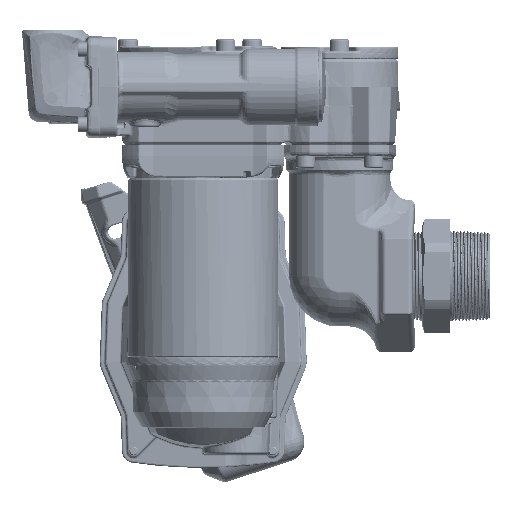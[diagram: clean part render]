
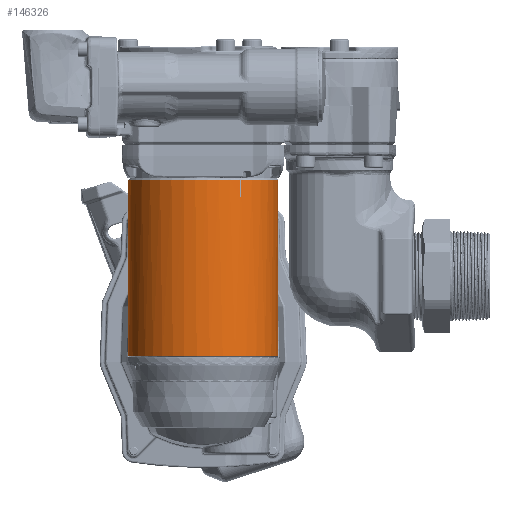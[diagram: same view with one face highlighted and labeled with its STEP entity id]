
A CAD part, left-side view. The second image highlights one B-rep face of the part: STEP entity #146326.
In plain terms, the highlighted cylindrical face has radius 50.8 mm (diameter 101.6 mm), a full revolution.
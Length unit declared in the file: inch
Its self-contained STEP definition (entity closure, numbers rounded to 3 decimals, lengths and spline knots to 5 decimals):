
#17139=CYLINDRICAL_SURFACE('',#157441,2.);
#21219=FACE_OUTER_BOUND('',#30005,.T.);
#30005=EDGE_LOOP('',(#115471,#115472,#115473,#115474,#115475,#115476,#115477,
#115478,#115479,#115480,#115481,#115482,#115483,#115484));
#44775=CIRCLE('',#157424,2.);
#44776=CIRCLE('',#157426,2.);
#44777=CIRCLE('',#157427,2.);
#44778=CIRCLE('',#157428,2.);
#44781=CIRCLE('',#157435,2.);
#44783=CIRCLE('',#157438,2.);
#44784=CIRCLE('',#157439,2.);
#44785=CIRCLE('',#157440,2.);
#50058=LINE('',#263862,#58709);
#50060=LINE('',#263875,#58711);
#50066=LINE('',#263902,#58717);
#50067=LINE('',#263909,#58718);
#50070=LINE('',#263923,#58721);
#58709=VECTOR('',#178108,0.3937);
#58711=VECTOR('',#178118,0.3937);
#58717=VECTOR('',#178144,0.3937);
#58718=VECTOR('',#178147,0.3937);
#58721=VECTOR('',#178166,2.);
#69836=VERTEX_POINT('',#263854);
#69838=VERTEX_POINT('',#263860);
#69841=VERTEX_POINT('',#263870);
#69842=VERTEX_POINT('',#263874);
#69843=VERTEX_POINT('',#263880);
#69844=VERTEX_POINT('',#263882);
#69849=VERTEX_POINT('',#263896);
#69850=VERTEX_POINT('',#263900);
#69851=VERTEX_POINT('',#263904);
#69852=VERTEX_POINT('',#263908);
#69854=VERTEX_POINT('',#263916);
#69855=VERTEX_POINT('',#263919);
#86194=EDGE_CURVE('',#69836,#69838,#50058,.T.);
#86199=EDGE_CURVE('',#69842,#69841,#50060,.T.);
#86201=EDGE_CURVE('',#69838,#69842,#44775,.T.);
#86202=EDGE_CURVE('',#69836,#69843,#44776,.T.);
#86203=EDGE_CURVE('',#69843,#69844,#44777,.T.);
#86205=EDGE_CURVE('',#69844,#69841,#44778,.T.);
#86212=EDGE_CURVE('',#69849,#69850,#50066,.T.);
#86214=EDGE_CURVE('',#69852,#69851,#50067,.T.);
#86216=EDGE_CURVE('',#69850,#69852,#44781,.T.);
#86219=EDGE_CURVE('',#69854,#69851,#44783,.T.);
#86220=EDGE_CURVE('',#69849,#69855,#44784,.T.);
#86221=EDGE_CURVE('',#69855,#69854,#44785,.T.);
#86222=EDGE_CURVE('',#69855,#69843,#50070,.T.);
#115471=ORIENTED_EDGE('',*,*,#86214,.T.);
#115472=ORIENTED_EDGE('',*,*,#86219,.F.);
#115473=ORIENTED_EDGE('',*,*,#86221,.F.);
#115474=ORIENTED_EDGE('',*,*,#86222,.T.);
#115475=ORIENTED_EDGE('',*,*,#86202,.F.);
#115476=ORIENTED_EDGE('',*,*,#86194,.T.);
#115477=ORIENTED_EDGE('',*,*,#86201,.T.);
#115478=ORIENTED_EDGE('',*,*,#86199,.T.);
#115479=ORIENTED_EDGE('',*,*,#86205,.F.);
#115480=ORIENTED_EDGE('',*,*,#86203,.F.);
#115481=ORIENTED_EDGE('',*,*,#86222,.F.);
#115482=ORIENTED_EDGE('',*,*,#86220,.F.);
#115483=ORIENTED_EDGE('',*,*,#86212,.T.);
#115484=ORIENTED_EDGE('',*,*,#86216,.T.);
#146326=ADVANCED_FACE('',(#21219),#17139,.T.);
#157424=AXIS2_PLACEMENT_3D('',#263878,#178122,#178123);
#157426=AXIS2_PLACEMENT_3D('',#263881,#178126,#178127);
#157427=AXIS2_PLACEMENT_3D('',#263883,#178128,#178129);
#157428=AXIS2_PLACEMENT_3D('',#263885,#178131,#178132);
#157435=AXIS2_PLACEMENT_3D('',#263912,#178151,#178152);
#157438=AXIS2_PLACEMENT_3D('',#263918,#178158,#178159);
#157439=AXIS2_PLACEMENT_3D('',#263920,#178160,#178161);
#157440=AXIS2_PLACEMENT_3D('',#263921,#178162,#178163);
#157441=AXIS2_PLACEMENT_3D('',#263922,#178164,#178165);
#178108=DIRECTION('',(0.,0.,-1.));
#178118=DIRECTION('',(0.,0.,1.));
#178122=DIRECTION('center_axis',(0.,0.,
-1.));
#178123=DIRECTION('ref_axis',(-0.966,0.259,0.));
#178126=DIRECTION('center_axis',(0.,0.,
1.));
#178127=DIRECTION('ref_axis',(0.966,-0.259,0.));
#178128=DIRECTION('center_axis',(0.,0.,
1.));
#178129=DIRECTION('ref_axis',(0.966,-0.259,0.));
#178131=DIRECTION('center_axis',(0.,0.,
1.));
#178132=DIRECTION('ref_axis',(0.966,-0.259,0.));
#178144=DIRECTION('',(0.,0.,1.));
#178147=DIRECTION('',(0.,0.,-1.));
#178151=DIRECTION('center_axis',(0.,0.,
1.));
#178152=DIRECTION('ref_axis',(-0.966,0.259,0.));
#178158=DIRECTION('center_axis',(0.,0.,
-1.));
#178159=DIRECTION('ref_axis',(0.966,-0.259,0.));
#178160=DIRECTION('center_axis',(0.,0.,
-1.));
#178161=DIRECTION('ref_axis',(0.966,-0.259,0.));
#178162=DIRECTION('center_axis',(0.,0.,
-1.));
#178163=DIRECTION('ref_axis',(0.966,-0.259,0.));
#178164=DIRECTION('center_axis',(0.,0.,
-1.));
#178165=DIRECTION('ref_axis',(-0.966,0.259,0.));
#178166=DIRECTION('',(0.,0.,1.));
#263854=CARTESIAN_POINT('',(-1.48319,13.98554,2.5285));
#263860=CARTESIAN_POINT('',(-1.48319,13.98554,2.0685));
#263862=CARTESIAN_POINT('',(-1.48319,13.98554,0.1885));
#263870=CARTESIAN_POINT('',(-1.49738,14.01005,2.5285));
#263874=CARTESIAN_POINT('',(-1.49738,14.01005,2.0685));
#263875=CARTESIAN_POINT('',(-1.49738,14.01005,0.1885));
#263878=CARTESIAN_POINT('Origin',(0.24043,15.,2.0685));
#263880=CARTESIAN_POINT('',(2.17229,14.48236,2.5285));
#263881=CARTESIAN_POINT('Origin',(0.24043,15.,2.5285));
#263882=CARTESIAN_POINT('',(-1.69142,15.51764,2.5285));
#263883=CARTESIAN_POINT('Origin',(0.24043,15.,2.5285));
#263885=CARTESIAN_POINT('Origin',(0.24043,15.,2.5285));
#263896=CARTESIAN_POINT('',(-0.74503,16.74036,-2.1515));
#263900=CARTESIAN_POINT('',(-0.74503,16.74036,-1.6815));
#263902=CARTESIAN_POINT('',(-0.74503,16.74036,0.1885));
#263904=CARTESIAN_POINT('',(-0.76958,16.72623,-2.1515));
#263908=CARTESIAN_POINT('',(-0.76958,16.72623,-1.6815));
#263909=CARTESIAN_POINT('',(-0.76958,16.72623,0.1885));
#263912=CARTESIAN_POINT('Origin',(0.24043,15.,-1.6815));
#263916=CARTESIAN_POINT('',(-1.69142,15.51764,-2.1515));
#263918=CARTESIAN_POINT('Origin',(0.24043,15.,-2.1515));
#263919=CARTESIAN_POINT('',(2.17229,14.48236,-2.1515));
#263920=CARTESIAN_POINT('Origin',(0.24043,15.,-2.1515));
#263921=CARTESIAN_POINT('Origin',(0.24043,15.,-2.1515));
#263922=CARTESIAN_POINT('Origin',(0.24043,15.,0.1885));
#263923=CARTESIAN_POINT('',(2.17229,14.48236,0.1885));
